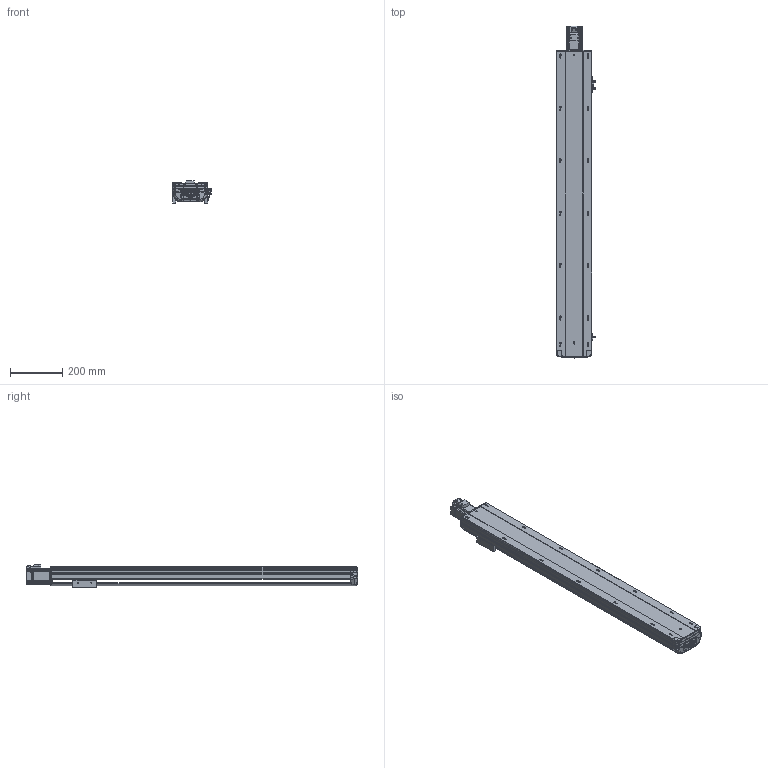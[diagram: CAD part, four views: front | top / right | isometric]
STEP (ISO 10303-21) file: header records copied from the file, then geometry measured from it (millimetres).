
FILE_DESCRIPTION (( 'STEP AP203' ), '1' );
FILE_NAME ('19.STEP', '2020-11-07T00:21:25', ( '' ), ( '' ), 'SwSTEP 2.0', 'SolidWorks 2016', '' );
FILE_SCHEMA (( 'CONFIG_CONTROL_DESIGN' ));
Length unit declared in the file: millimetre
Products named in the file (8): 19; BTH13-BC-04; BTH13-BL-20; BTH13-BC-HZ; BTH13-BC-01; BTH13-BC-菁釱; BTH13-BC-P20; BTH13-BC-03
Assembly tree (9 placements, depth 2):
  19
    BTH13-BC-菁釱
    BTH13-BC-01
    BTH13-BC-03
    BTH13-BC-04  x3
    BTH13-BC-HZ
    BTH13-BC-P20
    BTH13-BL-20
Bounding box: 148.7 x 1267.21 x 84.91 mm (x, y, z)
Volume: 4910347.7 mm3; surface area: 1072063.4 mm2
Topology: 10 solids, 10 shells, 1784 faces, 4821 edges, 3113 vertices
Faces by surface type: plane 932, cylinder 500, bspline 185, cone 134, torus 33
Entity records: 59113 total; most frequent: CARTESIAN_POINT 20550, ORIENTED_EDGE 8270, DIRECTION 7318, EDGE_CURVE 4135, VERTEX_POINT 2689, AXIS2_PLACEMENT_3D 2507, VECTOR 2304, LINE 2304
